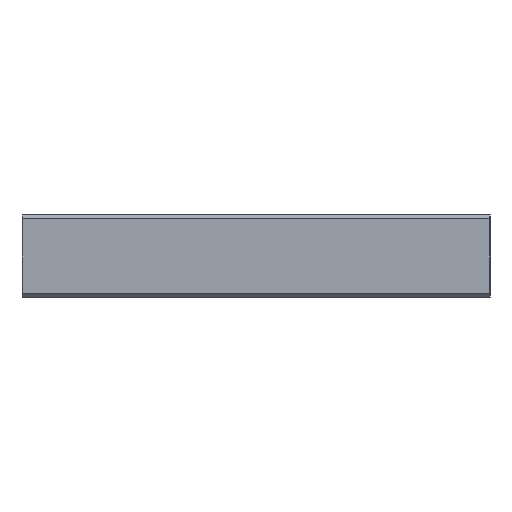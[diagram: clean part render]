
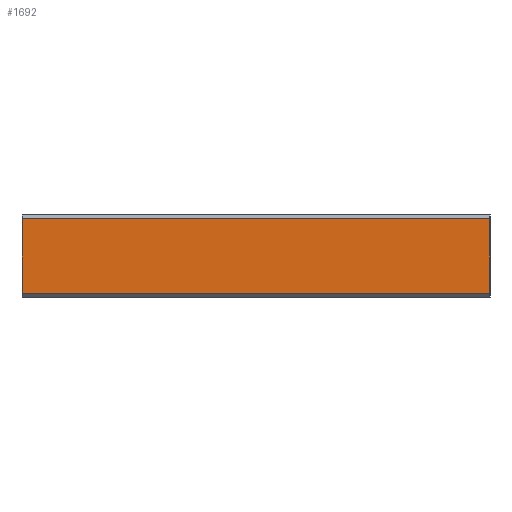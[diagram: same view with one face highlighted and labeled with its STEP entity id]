
A CAD part, left-side view. The second image highlights one B-rep face of the part: STEP entity #1692.
In plain terms, the highlighted planar face has unit normal (-1, 0, 0).
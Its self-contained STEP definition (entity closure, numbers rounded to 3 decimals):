
#2=DIRECTION('',(0.,0.,1.));
#3=VECTOR('',#2,5.9);
#4=CARTESIAN_POINT('',(-19.5,-22.,-23.2));
#5=LINE('',#4,#3);
#34=DIRECTION('',(0.,1.,0.));
#35=VECTOR('',#34,37.);
#36=CARTESIAN_POINT('',(-19.5,-22.,-23.2));
#37=LINE('',#36,#35);
#550=DIRECTION('',(0.,1.,0.));
#551=VECTOR('',#550,37.);
#552=CARTESIAN_POINT('',(-19.5,-22.,-17.3));
#553=LINE('',#552,#551);
#558=DIRECTION('',(0.,0.,1.));
#559=VECTOR('',#558,5.9);
#560=CARTESIAN_POINT('',(-19.5,15.,-23.2));
#561=LINE('',#560,#559);
#1430=CARTESIAN_POINT('',(-19.5,-22.,-17.3));
#1431=CARTESIAN_POINT('',(-19.5,15.,-17.3));
#1432=VERTEX_POINT('',#1430);
#1433=VERTEX_POINT('',#1431);
#1438=CARTESIAN_POINT('',(-19.5,-22.,-23.2));
#1439=VERTEX_POINT('',#1438);
#1440=CARTESIAN_POINT('',(-19.5,15.,-23.2));
#1441=VERTEX_POINT('',#1440);
#1678=CARTESIAN_POINT('',(-19.5,-22.,-23.5));
#1679=DIRECTION('',(-1.,0.,0.));
#1680=DIRECTION('',(0.,0.,1.));
#1681=AXIS2_PLACEMENT_3D('',#1678,#1679,#1680);
#1682=PLANE('',#1681);
#1683=ORIENTED_EDGE('',*,*,#1647,.F.);
#1685=ORIENTED_EDGE('',*,*,#1684,.T.);
#1687=ORIENTED_EDGE('',*,*,#1686,.T.);
#1689=ORIENTED_EDGE('',*,*,#1688,.F.);
#1690=EDGE_LOOP('',(#1683,#1685,#1687,#1689));
#1691=FACE_OUTER_BOUND('',#1690,.F.);
#1692=ADVANCED_FACE('',(#1691),#1682,.T.);
#1647=EDGE_CURVE('',#1439,#1432,#5,.T.);
#1684=EDGE_CURVE('',#1439,#1441,#37,.T.);
#1686=EDGE_CURVE('',#1441,#1433,#561,.T.);
#1688=EDGE_CURVE('',#1432,#1433,#553,.T.);
